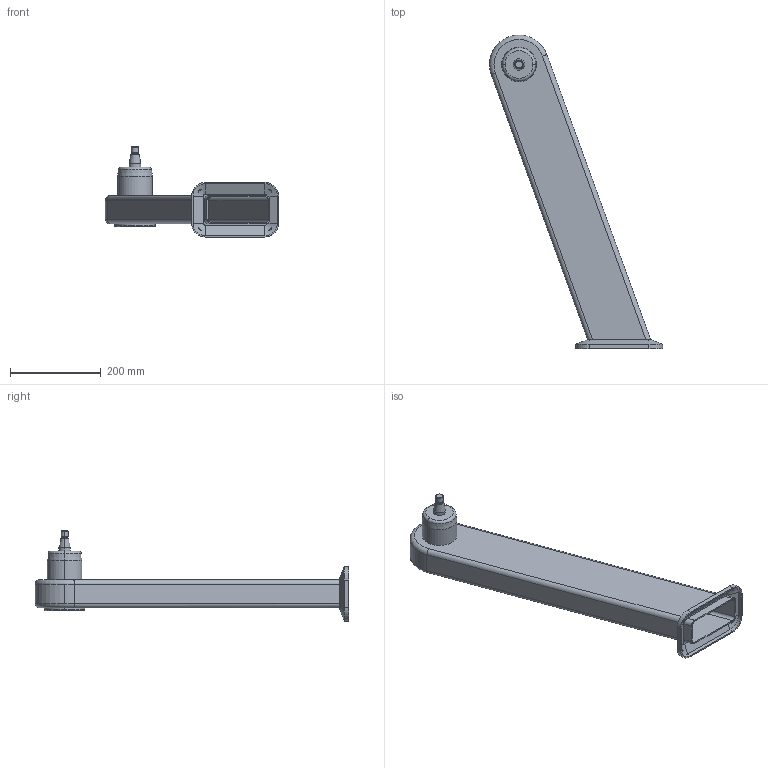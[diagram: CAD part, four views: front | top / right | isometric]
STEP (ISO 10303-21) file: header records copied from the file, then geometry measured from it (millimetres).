
FILE_DESCRIPTION (( 'STEP AP214' ), '1' );
FILE_NAME ('WP710_H625_-20.STEP', '2014-06-27T07:02:29', ( '' ), ( '' ), 'SwSTEP 2.0', 'SolidWorks 2014', '' );
FILE_SCHEMA (( 'AUTOMOTIVE_DESIGN' ));
Length unit declared in the file: millimetre
Products named in the file (1): WP710_H625_-20
Bounding box: 380.7 x 690 x 198 mm (x, y, z)
Volume: 1197614.3 mm3; surface area: 583558.7 mm2
Topology: 1 solids, 1 shells, 112 faces, 253 edges, 154 vertices
Faces by surface type: cylinder 44, plane 40, cone 20, torus 8
Entity records: 3234 total; most frequent: CARTESIAN_POINT 679, DIRECTION 553, ORIENTED_EDGE 506, EDGE_CURVE 253, AXIS2_PLACEMENT_3D 211, VERTEX_POINT 154, VECTOR 131, LINE 131
